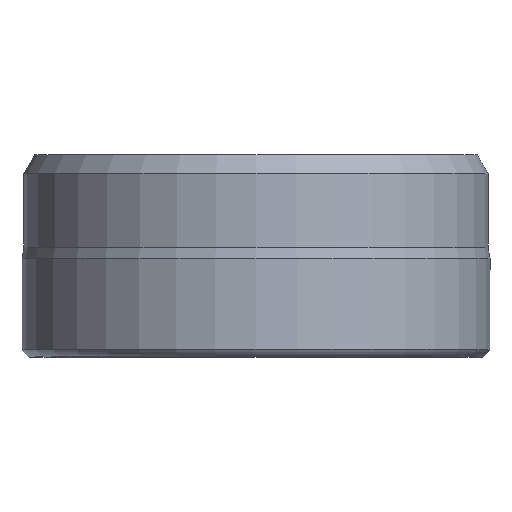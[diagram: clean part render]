
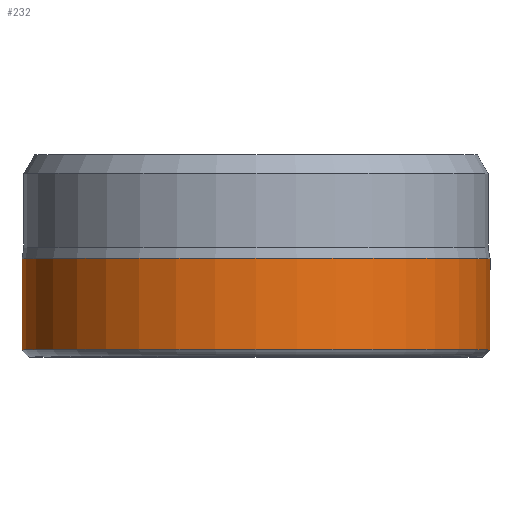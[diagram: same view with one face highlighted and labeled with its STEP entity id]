
A CAD part, top view. The second image highlights one B-rep face of the part: STEP entity #232.
In plain terms, the highlighted cylindrical face has radius 12.5 mm (diameter 25 mm), a partial arc.
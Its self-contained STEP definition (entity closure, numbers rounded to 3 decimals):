
#16 = DIRECTION ( 'NONE',  ( -1., 0., 0. ) ) ;
#35 = DIRECTION ( 'NONE',  ( -1., 0., 0. ) ) ;
#60 = VECTOR ( 'NONE', #845, 1000. ) ;
#72 = CIRCLE ( 'NONE', #590, 12.5 ) ;
#130 = DIRECTION ( 'NONE',  ( 0., 1., 0. ) ) ;
#139 = EDGE_CURVE ( 'NONE', #587, #629, #72, .T. ) ;
#146 = DIRECTION ( 'NONE',  ( 0., 1., 0. ) ) ;
#148 = VECTOR ( 'NONE', #648, 1000. ) ;
#203 = CARTESIAN_POINT ( 'NONE',  ( 12.5, 0.391, 0. ) ) ;
#232 = ADVANCED_FACE ( 'NONE', ( #421 ), #402, .T. ) ;
#239 = CARTESIAN_POINT ( 'NONE',  ( 0., 5.259, 0. ) ) ;
#246 = AXIS2_PLACEMENT_3D ( 'NONE', #257, #146, #35 ) ;
#249 = ORIENTED_EDGE ( 'NONE', *, *, #458, .F. ) ;
#257 = CARTESIAN_POINT ( 'NONE',  ( 0., 0.391, 0. ) ) ;
#277 = ORIENTED_EDGE ( 'NONE', *, *, #933, .T. ) ;
#325 = ORIENTED_EDGE ( 'NONE', *, *, #391, .T. ) ;
#330 = CARTESIAN_POINT ( 'NONE',  ( 0., 6.164, 0. ) ) ;
#363 = CARTESIAN_POINT ( 'NONE',  ( 12.5, 5.259, 0. ) ) ;
#391 = EDGE_CURVE ( 'NONE', #900, #856, #560, .T. ) ;
#402 = CYLINDRICAL_SURFACE ( 'NONE', #423, 12.5 ) ;
#414 = EDGE_LOOP ( 'NONE', ( #325, #277, #729, #249 ) ) ;
#421 = FACE_OUTER_BOUND ( 'NONE', #414, .T. ) ;
#423 = AXIS2_PLACEMENT_3D ( 'NONE', #330, #916, #824 ) ;
#458 = EDGE_CURVE ( 'NONE', #900, #587, #834, .T. ) ;
#560 = CIRCLE ( 'NONE', #246, 12.5 ) ;
#587 = VERTEX_POINT ( 'NONE', #889 ) ;
#590 = AXIS2_PLACEMENT_3D ( 'NONE', #239, #130, #16 ) ;
#623 = CARTESIAN_POINT ( 'NONE',  ( -12.5, 0.391, 0. ) ) ;
#629 = VERTEX_POINT ( 'NONE', #363 ) ;
#648 = DIRECTION ( 'NONE',  ( 0., 1., 0. ) ) ;
#729 = ORIENTED_EDGE ( 'NONE', *, *, #139, .F. ) ;
#731 = CARTESIAN_POINT ( 'NONE',  ( -12.5, 6.164, 0. ) ) ;
#824 = DIRECTION ( 'NONE',  ( -1., 0., 0. ) ) ;
#834 = LINE ( 'NONE', #731, #148 ) ;
#837 = LINE ( 'NONE', #839, #60 ) ;
#839 = CARTESIAN_POINT ( 'NONE',  ( 12.5, 6.164, 0. ) ) ;
#845 = DIRECTION ( 'NONE',  ( 0., 1., 0. ) ) ;
#856 = VERTEX_POINT ( 'NONE', #203 ) ;
#889 = CARTESIAN_POINT ( 'NONE',  ( -12.5, 5.259, 0. ) ) ;
#900 = VERTEX_POINT ( 'NONE', #623 ) ;
#916 = DIRECTION ( 'NONE',  ( 0., 1., 0. ) ) ;
#933 = EDGE_CURVE ( 'NONE', #856, #629, #837, .T. ) ;
